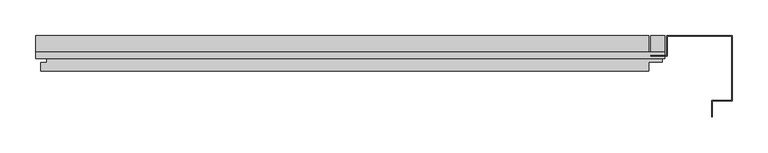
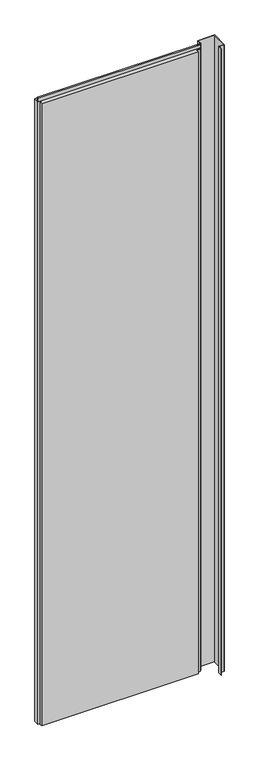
"""IFC4 building model written with IfcOpenShell, lengths in millimetres: plate geometry, Trimo_Qbiss Screen_Normal Panel-VERTICAL : HR - FB."""

from ifc_helpers import new_model, si_unit, frame, origin, place, context, project, spatial, polyline, outline, extrude, source, transform, mapped, element, save


def plate_39fda51a(model_context):
    return source(origin(), model_context, "Body", "SweptSolid", [
        extrude(outline(polyline([(456.0, 97.0), (437.0, 97.0), (437.0, 126.0), (456.0, 126.0), (456.0, 97.0)])), frame((0.0, 0.0, 12.5), z_axis=(0.0, 0.0, 1.0), x_axis=(1.0, 0.0, 0.0)), (0.0, 0.0, 1.0), 3575.0),
        extrude(outline(polyline([(-425.0, 93.9), (-425.0, 102.6), (456.0, 102.6), (456.0, 93.9), (-425.0, 93.9)])), frame((0.0, 0.0, 3590.5), z_axis=(0.0, 0.0, 1.0), x_axis=(1.0, 0.0, 0.0)), (0.0, 0.0, 1.0), 19.0),
        extrude(outline(polyline([(434.0, 97.0), (452.5, 97.0), (452.5, 89.0), (434.0, 89.0), (434.0, 76.0), (-418.0, 76.0), (-418.0, 88.0), (-409.5, 88.0), (-409.5, 98.0), (-425.0, 98.0), (-425.0, 126.0), (434.0, 126.0), (434.0, 97.0)])), frame((0.0, 0.0, 12.5), z_axis=(0.0, 0.0, 1.0), x_axis=(1.0, 0.0, 0.0)), (0.0, 0.0, 1.0), 3575.0),
        extrude(outline(polyline([(459.0, 97.8), (459.0, 126.0), (551.0, 126.0), (551.0, 34.0), (522.8, 34.0), (522.8, 12.0), (522.0, 12.0), (522.0, 34.8), (550.2, 34.8), (550.2, 125.2), (459.8, 125.2), (459.8, 97.0), (437.0, 97.0), (437.0, 97.8), (459.0, 97.8)])), frame((0.0, 0.0, 12.5), z_axis=(0.0, 0.0, 1.0), x_axis=(1.0, 0.0, 0.0)), (0.0, 0.0, 1.0), 3600.0),
    ])


if __name__ == "__main__":
    model = new_model("IFC4")
    model_context = context("Model", 3, world=origin())
    ifc_project = project(units=[si_unit("LENGTHUNIT", "METRE", prefix="MILLI")], contexts=[model_context])
    site = spatial("IfcSite", under=ifc_project)
    building = spatial("IfcBuilding", under=site)
    placement = place(None, origin())
    plate_shape = plate_39fda51a(model_context)
    element("IfcPlate", 1, ObjectType="Trimo_Qbiss Screen_Normal Panel-VERTICAL : HR - FB", at=placement, inside=building, context=model_context, shape_type="MappedRepresentation", body=[
        mapped(plate_shape, transform((0.0, 0.0, 0.0), x_axis=(1.0, 0.0, 0.0), y_axis=(0.0, 1.0, 0.0), z_axis=(0.0, 0.0, 1.0))),
    ])
    save(model, "model.ifc")
